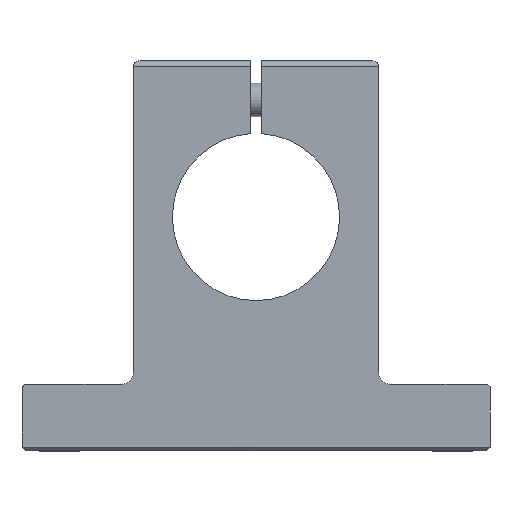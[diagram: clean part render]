
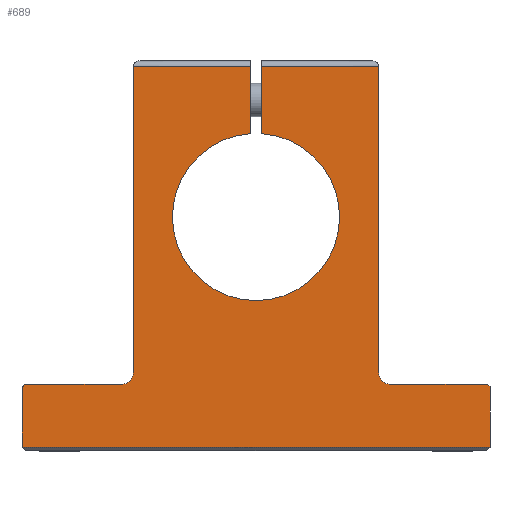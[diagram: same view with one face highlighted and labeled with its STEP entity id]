
A CAD part, left-side view. The second image highlights one B-rep face of the part: STEP entity #689.
In plain terms, the highlighted planar face has unit normal (-1, 0, 0).
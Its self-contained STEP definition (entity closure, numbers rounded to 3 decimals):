
#441=CARTESIAN_POINT('',(0.0,1.,27.));
#442=VERTEX_POINT('',#441);
#460=CARTESIAN_POINT('',(0.0,22.0,27.));
#461=VERTEX_POINT('',#460);
#469=CARTESIAN_POINT('',(0.0,22.0,27.));
#470=DIRECTION('',(0.0,-1.0,0.0));
#471=VECTOR('',#470,21.);
#472=LINE('',#469,#471);
#473=EDGE_CURVE('',#461,#442,#472,.T.);
#559=CARTESIAN_POINT('',(0.0,0.,-9.127));
#560=DIRECTION('',(1.0,0.0,0.0));
#561=DIRECTION('',(0.0,0.0,-1.0));
#562=AXIS2_PLACEMENT_3D('',#559,#560,#561);
#563=PLANE('',#562);
#564=ORIENTED_EDGE('',*,*,#473,.F.);
#565=CARTESIAN_POINT('',(0.0,22.0,-28.));
#566=VERTEX_POINT('',#565);
#567=CARTESIAN_POINT('',(0.0,22.0,-28.));
#568=DIRECTION('',(0.0,0.0,1.0));
#569=VECTOR('',#568,55.0);
#570=LINE('',#567,#569);
#571=EDGE_CURVE('',#566,#461,#570,.T.);
#572=ORIENTED_EDGE('',*,*,#571,.F.);
#573=CARTESIAN_POINT('',(0.0,24.,-30.0));
#574=VERTEX_POINT('',#573);
#575=CARTESIAN_POINT('',(0.0,24.,-28.));
#576=DIRECTION('',(-1.,0.0,0.0));
#577=DIRECTION('',(0.0,-0.707,-0.707));
#578=AXIS2_PLACEMENT_3D('',#575,#576,#577);
#579=CIRCLE('',#578,2.);
#580=EDGE_CURVE('',#574,#566,#579,.T.);
#581=ORIENTED_EDGE('',*,*,#580,.F.);
#582=CARTESIAN_POINT('',(0.0,41.,-30.0));
#583=VERTEX_POINT('',#582);
#584=CARTESIAN_POINT('',(0.0,41.,-30.0));
#585=DIRECTION('',(0.0,-1.0,0.0));
#586=VECTOR('',#585,17.);
#587=LINE('',#584,#586);
#588=EDGE_CURVE('',#583,#574,#587,.T.);
#589=ORIENTED_EDGE('',*,*,#588,.F.);
#590=CARTESIAN_POINT('',(0.0,42.0,-31.0));
#591=VERTEX_POINT('',#590);
#592=CARTESIAN_POINT('',(0.0,41.,-31.0));
#593=DIRECTION('',(1.0,0.0,0.0));
#594=DIRECTION('',(0.0,0.707,0.707));
#595=AXIS2_PLACEMENT_3D('',#592,#593,#594);
#596=CIRCLE('',#595,1.);
#597=EDGE_CURVE('',#591,#583,#596,.T.);
#598=ORIENTED_EDGE('',*,*,#597,.F.);
#599=CARTESIAN_POINT('',(0.0,42.0,-41.3));
#600=VERTEX_POINT('',#599);
#601=CARTESIAN_POINT('',(0.0,42.0,-41.3));
#602=DIRECTION('',(0.0,0.0,1.0));
#603=VECTOR('',#602,10.3);
#604=LINE('',#601,#603);
#605=EDGE_CURVE('',#600,#591,#604,.T.);
#606=ORIENTED_EDGE('',*,*,#605,.F.);
#607=CARTESIAN_POINT('',(0.0,-42.0,-41.3));
#608=VERTEX_POINT('',#607);
#609=CARTESIAN_POINT('',(0.0,-42.0,-41.3));
#610=DIRECTION('',(0.0,1.0,0.0));
#611=VECTOR('',#610,84.0);
#612=LINE('',#609,#611);
#613=EDGE_CURVE('',#608,#600,#612,.T.);
#614=ORIENTED_EDGE('',*,*,#613,.F.);
#615=CARTESIAN_POINT('',(0.0,-42.0,-30.5));
#616=VERTEX_POINT('',#615);
#617=CARTESIAN_POINT('',(0.0,-42.0,-30.5));
#618=DIRECTION('',(0.0,0.0,-1.0));
#619=VECTOR('',#618,10.8);
#620=LINE('',#617,#619);
#621=EDGE_CURVE('',#616,#608,#620,.T.);
#622=ORIENTED_EDGE('',*,*,#621,.F.);
#623=CARTESIAN_POINT('',(0.0,-41.5,-30.0));
#624=VERTEX_POINT('',#623);
#625=CARTESIAN_POINT('',(0.0,-41.5,-30.0));
#626=DIRECTION('',(0.0,-0.707,-0.707));
#627=VECTOR('',#626,0.707);
#628=LINE('',#625,#627);
#629=EDGE_CURVE('',#624,#616,#628,.T.);
#630=ORIENTED_EDGE('',*,*,#629,.F.);
#631=CARTESIAN_POINT('',(0.0,-24.,-30.0));
#632=VERTEX_POINT('',#631);
#633=CARTESIAN_POINT('',(0.0,-24.,-30.0));
#634=DIRECTION('',(0.0,-1.0,0.0));
#635=VECTOR('',#634,17.5);
#636=LINE('',#633,#635);
#637=EDGE_CURVE('',#632,#624,#636,.T.);
#638=ORIENTED_EDGE('',*,*,#637,.F.);
#639=CARTESIAN_POINT('',(0.0,-22.0,-28.));
#640=VERTEX_POINT('',#639);
#641=CARTESIAN_POINT('',(0.0,-24.,-28.));
#642=DIRECTION('',(-1.,0.0,0.0));
#643=DIRECTION('',(0.0,0.707,-0.707));
#644=AXIS2_PLACEMENT_3D('',#641,#642,#643);
#645=CIRCLE('',#644,2.);
#646=EDGE_CURVE('',#640,#632,#645,.T.);
#647=ORIENTED_EDGE('',*,*,#646,.F.);
#648=CARTESIAN_POINT('',(0.0,-22.0,27.));
#649=VERTEX_POINT('',#648);
#650=CARTESIAN_POINT('',(0.0,-22.0,27.));
#651=DIRECTION('',(0.0,0.0,-1.0));
#652=VECTOR('',#651,55.0);
#653=LINE('',#650,#652);
#654=EDGE_CURVE('',#649,#640,#653,.T.);
#655=ORIENTED_EDGE('',*,*,#654,.F.);
#656=CARTESIAN_POINT('',(0.0,-1.,27.));
#657=VERTEX_POINT('',#656);
#658=CARTESIAN_POINT('',(0.0,-1.,27.));
#659=DIRECTION('',(0.0,-1.0,0.0));
#660=VECTOR('',#659,21.);
#661=LINE('',#658,#660);
#662=EDGE_CURVE('',#657,#649,#661,.T.);
#663=ORIENTED_EDGE('',*,*,#662,.F.);
#664=CARTESIAN_POINT('',(0.0,-1.,14.967));
#665=VERTEX_POINT('',#664);
#666=CARTESIAN_POINT('',(0.0,-1.,14.967));
#667=DIRECTION('',(0.0,0.0,1.0));
#668=VECTOR('',#667,12.033);
#669=LINE('',#666,#668);
#670=EDGE_CURVE('',#665,#657,#669,.T.);
#671=ORIENTED_EDGE('',*,*,#670,.F.);
#672=CARTESIAN_POINT('',(0.0,1.,14.967));
#673=VERTEX_POINT('',#672);
#674=CARTESIAN_POINT('',(0.0,0.0,0.0));
#675=DIRECTION('',(-1.0,0.0,0.0));
#676=DIRECTION('',(0.0,-1.0,0.0));
#677=AXIS2_PLACEMENT_3D('',#674,#675,#676);
#678=CIRCLE('',#677,15.0);
#679=EDGE_CURVE('',#673,#665,#678,.T.);
#680=ORIENTED_EDGE('',*,*,#679,.F.);
#681=CARTESIAN_POINT('',(0.0,1.,27.));
#682=DIRECTION('',(0.0,0.0,-1.0));
#683=VECTOR('',#682,12.033);
#684=LINE('',#681,#683);
#685=EDGE_CURVE('',#442,#673,#684,.T.);
#686=ORIENTED_EDGE('',*,*,#685,.F.);
#687=EDGE_LOOP('',(#564,#572,#581,#589,#598,#606,#614,#622,#630,#638,#647,#655,#663,#671,#680,#686));
#688=FACE_OUTER_BOUND('',#687,.T.);
#689=ADVANCED_FACE('',(#688),#563,.F.);
